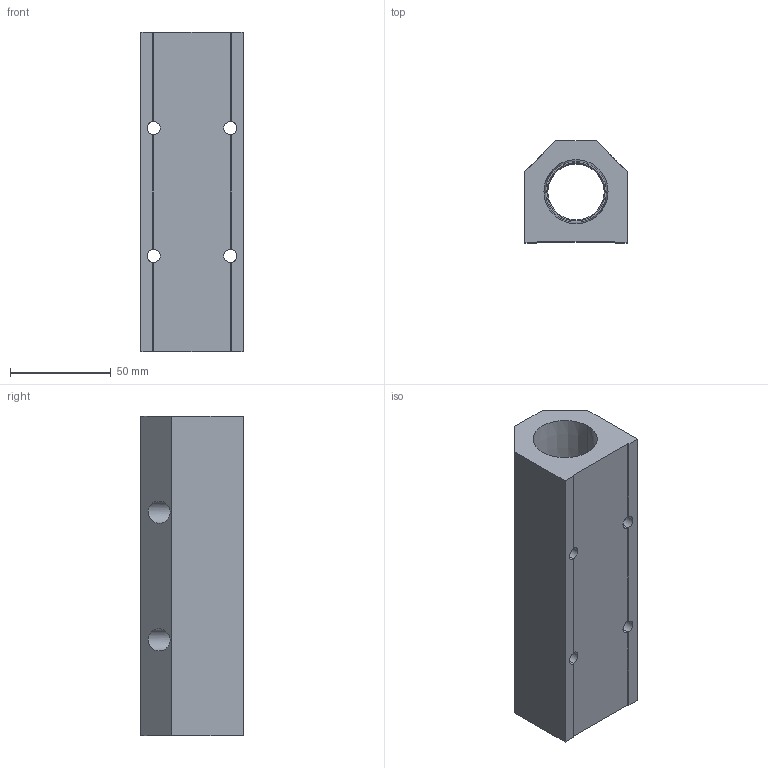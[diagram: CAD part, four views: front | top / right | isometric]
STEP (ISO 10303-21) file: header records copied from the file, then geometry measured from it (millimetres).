
FILE_DESCRIPTION (( 'STEP AP214' ), '1' );
FILE_NAME ('ALM4C-N4N16-159B.STEP', '2023-11-02T06:35:12', ( '' ), ( '' ), 'SwSTEP 2.0', 'SolidWorks 2020', '' );
FILE_SCHEMA (( 'AUTOMOTIVE_DESIGN' ));
Length unit declared in the file: millimetre
Products named in the file (1): ALM4C-N4N16-159B
Bounding box: 50.8 x 50.8 x 159 mm (x, y, z)
Volume: 251179.5 mm3; surface area: 51540.6 mm2
Topology: 1 solids, 1 shells, 285 faces, 740 edges, 488 vertices
Faces by surface type: plane 199, bspline 48, cylinder 22, cone 16
Entity records: 14623 total; most frequent: CARTESIAN_POINT 5390, ORIENTED_EDGE 1480, DIRECTION 1148, EDGE_CURVE 740, LINE 568, VECTOR 568, VERTEX_POINT 488, EDGE_LOOP 334
